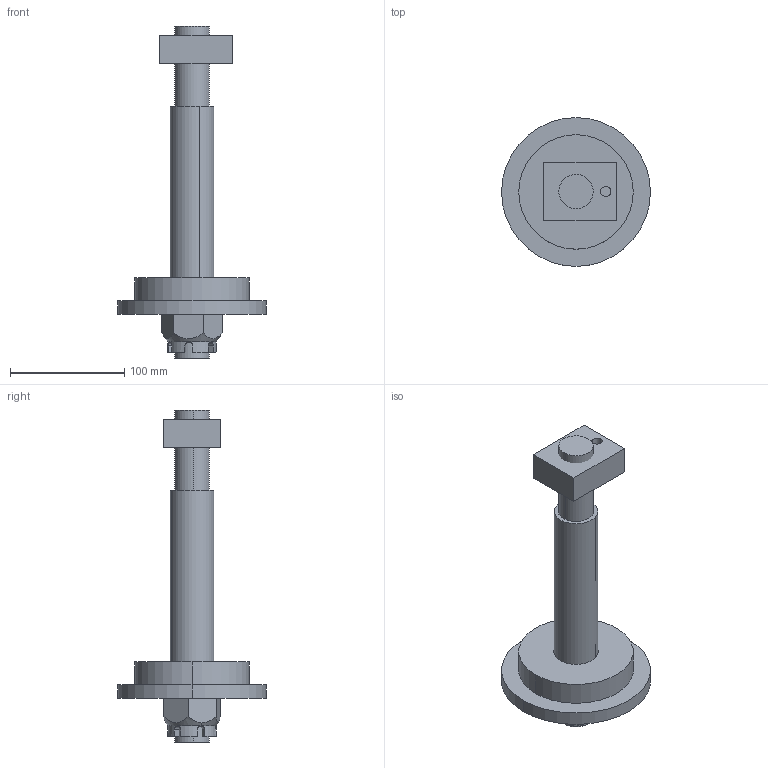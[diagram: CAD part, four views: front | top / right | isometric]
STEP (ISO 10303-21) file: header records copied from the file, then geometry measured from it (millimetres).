
FILE_DESCRIPTION(('CATIA V5 STEP Exchange'),'2;1');
FILE_NAME('C:\Users\Utente\Desktop\IO LAVORO\3D X SITO CF\X 3D SITO CF 27-09-2020\740T\740T-30\740T-30.stp','2020-10-27T19:08:48+00:00',('none'),('none'),'CATIA Version 5 Release 20 GA (IN-10)','CATIA V5 STEP AP203','none');
FILE_SCHEMA(('CONFIG_CONTROL_DESIGN'));
Length unit declared in the file: millimetre
Products named in the file (1): 740T-30
Assembly tree (6 placements, depth 2):
  740T-30
    #58
    #373
    #482
    #2330
    #2509
    #2688
Bounding box: 130 x 130 x 290 mm (x, y, z)
Volume: 650653.5 mm3; surface area: 142956.6 mm2
Topology: 6 solids, 6 shells, 75 faces, 197 edges, 133 vertices
Faces by surface type: plane 39, cylinder 34, cone 2
Entity records: 2844 total; most frequent: CARTESIAN_POINT 895, ORIENTED_EDGE 394, DIRECTION 322, EDGE_CURVE 197, AXIS2_PLACEMENT_3D 139, VERTEX_POINT 133, VECTOR 96, LINE 96
